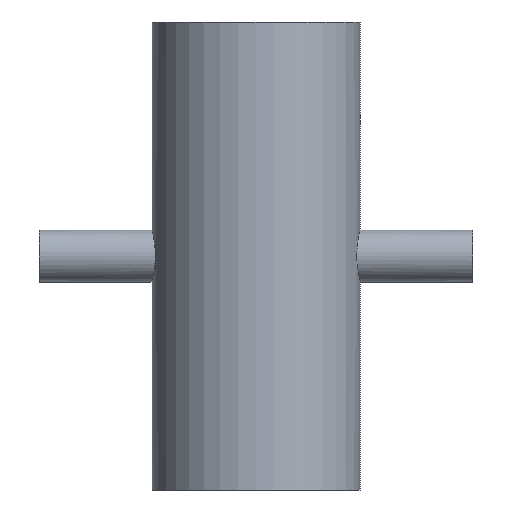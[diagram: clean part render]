
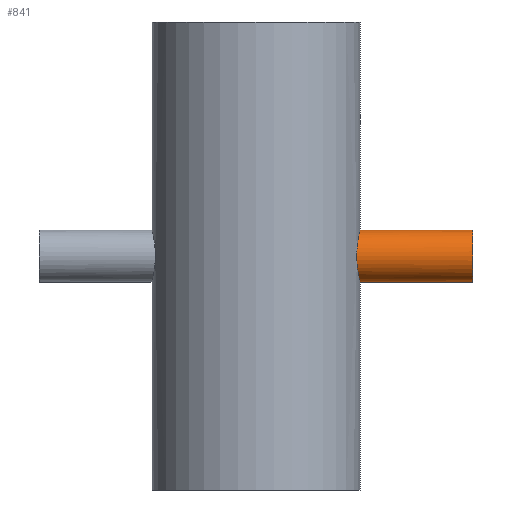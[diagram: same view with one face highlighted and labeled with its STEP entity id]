
A CAD part, front view. The second image highlights one B-rep face of the part: STEP entity #841.
In plain terms, the highlighted cylindrical face has radius 9.525 mm (diameter 19.05 mm), a partial arc.
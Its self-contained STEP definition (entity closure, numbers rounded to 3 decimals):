
#12 = CARTESIAN_POINT ( 'NONE',  ( 38.1, -0.632, -9.525 ) ) ;
#27 = CARTESIAN_POINT ( 'NONE',  ( 37.231, -8.092, 5.035 ) ) ;
#42 = CARTESIAN_POINT ( 'NONE',  ( 38.1, 0., -9.525 ) ) ;
#47 = EDGE_CURVE ( 'NONE', #722, #434, #792, .T. ) ;
#73 = CARTESIAN_POINT ( 'NONE',  ( 37.342, -7.563, 5.798 ) ) ;
#76 = CARTESIAN_POINT ( 'NONE',  ( 37.13, -8.545, 4.22 ) ) ;
#79 = DIRECTION ( 'NONE',  ( 0., 0., -1. ) ) ;
#85 = CARTESIAN_POINT ( 'NONE',  ( 37.196, -8.251, 4.769 ) ) ;
#107 = CARTESIAN_POINT ( 'NONE',  ( 38.039, -2.168, -9.28 ) ) ;
#141 = CARTESIAN_POINT ( 'NONE',  ( 36.953, -9.279, -2.175 ) ) ;
#144 = LINE ( 'NONE', #686, #160 ) ;
#145 = EDGE_CURVE ( 'NONE', #610, #698, #866, .T. ) ;
#160 = VECTOR ( 'NONE', #695, 1000. ) ;
#162 = CARTESIAN_POINT ( 'NONE',  ( 38.084, -1.253, -9.463 ) ) ;
#164 = CARTESIAN_POINT ( 'NONE',  ( 37.043, -8.914, -3.371 ) ) ;
#166 = CARTESIAN_POINT ( 'NONE',  ( 37.578, -6.287, -7.162 ) ) ;
#167 = CARTESIAN_POINT ( 'NONE',  ( 37.099, -8.676, -3.943 ) ) ;
#171 = CARTESIAN_POINT ( 'NONE',  ( 36.906, -9.463, 1.249 ) ) ;
#174 = CARTESIAN_POINT ( 'NONE',  ( 37.13, -8.543, -4.223 ) ) ;
#181 = CARTESIAN_POINT ( 'NONE',  ( 36.972, -9.201, -2.482 ) ) ;
#183 = CARTESIAN_POINT ( 'NONE',  ( 37.656, -5.805, -7.558 ) ) ;
#204 = CARTESIAN_POINT ( 'NONE',  ( 37.656, -5.82, 7.566 ) ) ;
#205 = CARTESIAN_POINT ( 'NONE',  ( 36.89, -9.524, -0.632 ) ) ;
#220 = ORIENTED_EDGE ( 'NONE', *, *, #47, .F. ) ;
#223 = CARTESIAN_POINT ( 'NONE',  ( 37.866, -4.23, 8.54 ) ) ;
#226 = CARTESIAN_POINT ( 'NONE',  ( 37.539, -6.517, -6.953 ) ) ;
#234 = CARTESIAN_POINT ( 'NONE',  ( 36.968, -9.22, 2.473 ) ) ;
#247 = CARTESIAN_POINT ( 'NONE',  ( 37.896, -3.946, 8.675 ) ) ;
#259 = ORIENTED_EDGE ( 'NONE', *, *, #659, .T. ) ;
#269 = CARTESIAN_POINT ( 'NONE',  ( 79.375, 0., -9.525 ) ) ;
#295 = CARTESIAN_POINT ( 'NONE',  ( 37.232, -8.089, -5.04 ) ) ;
#298 = CARTESIAN_POINT ( 'NONE',  ( 37.343, -7.566, -5.82 ) ) ;
#311 = CYLINDRICAL_SURFACE ( 'NONE', #537, 9.525 ) ;
#325 = CARTESIAN_POINT ( 'NONE',  ( 36.89, -9.526, 0.615 ) ) ;
#351 = CARTESIAN_POINT ( 'NONE',  ( 38.069, -1.571, 9.4 ) ) ;
#373 = CARTESIAN_POINT ( 'NONE',  ( 37.098, -8.68, 3.935 ) ) ;
#376 = DIRECTION ( 'NONE',  ( 1., 0., 0. ) ) ;
#384 = CARTESIAN_POINT ( 'NONE',  ( 79.375, 0., 9.525 ) ) ;
#390 = CARTESIAN_POINT ( 'NONE',  ( 38.023, -2.49, 9.215 ) ) ;
#404 = EDGE_CURVE ( 'NONE', #434, #698, #144, .T. ) ;
#434 = VERTEX_POINT ( 'NONE', #679 ) ;
#440 = CARTESIAN_POINT ( 'NONE',  ( 38.1, 0., 9.525 ) ) ;
#445 = CARTESIAN_POINT ( 'NONE',  ( 37.979, -3.084, 9.033 ) ) ;
#449 = DIRECTION ( 'NONE',  ( 0., 0., -1. ) ) ;
#450 = CARTESIAN_POINT ( 'NONE',  ( 36.906, -9.463, -1.252 ) ) ;
#458 = DIRECTION ( 'NONE',  ( -1., 0., 0. ) ) ;
#462 = EDGE_LOOP ( 'NONE', ( #572, #220, #259, #766 ) ) ;
#487 = LINE ( 'NONE', #519, #696 ) ;
#492 = CARTESIAN_POINT ( 'NONE',  ( 37.977, -3.07, -9.022 ) ) ;
#494 = CARTESIAN_POINT ( 'NONE',  ( -79.375, 0., 0. ) ) ;
#506 = CARTESIAN_POINT ( 'NONE',  ( 79.375, 0., 0. ) ) ;
#515 = CARTESIAN_POINT ( 'NONE',  ( 37.304, -7.748, 5.549 ) ) ;
#518 = CARTESIAN_POINT ( 'NONE',  ( 37.017, -9.019, -3.079 ) ) ;
#519 = CARTESIAN_POINT ( 'NONE',  ( -79.375, 0., -9.525 ) ) ;
#528 = CARTESIAN_POINT ( 'NONE',  ( 38.021, -2.471, -9.204 ) ) ;
#531 = CARTESIAN_POINT ( 'NONE',  ( 37.869, -4.232, -8.556 ) ) ;
#537 = AXIS2_PLACEMENT_3D ( 'NONE', #494, #624, #79 ) ;
#553 = CARTESIAN_POINT ( 'NONE',  ( 37.803, -4.778, -8.264 ) ) ;
#572 = ORIENTED_EDGE ( 'NONE', *, *, #404, .F. ) ;
#592 = CARTESIAN_POINT ( 'NONE',  ( 37.694, -5.553, -7.745 ) ) ;
#604 = CARTESIAN_POINT ( 'NONE',  ( 37.196, -8.25, -4.771 ) ) ;
#610 = VERTEX_POINT ( 'NONE', #269 ) ;
#624 = DIRECTION ( 'NONE',  ( 1., 0., 0. ) ) ;
#626 = CARTESIAN_POINT ( 'NONE',  ( 38.081, -1.258, 9.447 ) ) ;
#630 = CARTESIAN_POINT ( 'NONE',  ( 38.1, 0., -9.525 ) ) ;
#652 = CARTESIAN_POINT ( 'NONE',  ( 37.952, -3.367, -8.915 ) ) ;
#657 = CARTESIAN_POINT ( 'NONE',  ( 38.1, -0.316, 9.525 ) ) ;
#659 = EDGE_CURVE ( 'NONE', #722, #610, #487, .T. ) ;
#669 = CARTESIAN_POINT ( 'NONE',  ( 37.42, -7.17, 6.278 ) ) ;
#677 = CARTESIAN_POINT ( 'NONE',  ( 37.579, -6.298, 7.173 ) ) ;
#679 = CARTESIAN_POINT ( 'NONE',  ( 38.1, 0., 9.525 ) ) ;
#686 = CARTESIAN_POINT ( 'NONE',  ( -79.375, 0., 9.525 ) ) ;
#695 = DIRECTION ( 'NONE',  ( 1., 0., 0. ) ) ;
#696 = VECTOR ( 'NONE', #376, 1000. ) ;
#698 = VERTEX_POINT ( 'NONE', #384 ) ;
#707 = CARTESIAN_POINT ( 'NONE',  ( 37.46, -6.959, 6.511 ) ) ;
#717 = AXIS2_PLACEMENT_3D ( 'NONE', #506, #458, #449 ) ;
#721 = CARTESIAN_POINT ( 'NONE',  ( 37.765, -5.048, 8.083 ) ) ;
#722 = VERTEX_POINT ( 'NONE', #630 ) ;
#727 = CARTESIAN_POINT ( 'NONE',  ( 38.096, -0.631, 9.509 ) ) ;
#740 = CARTESIAN_POINT ( 'NONE',  ( 37.013, -9.039, 3.068 ) ) ;
#766 = ORIENTED_EDGE ( 'NONE', *, *, #145, .T. ) ;
#768 = CARTESIAN_POINT ( 'NONE',  ( 37.8, -4.782, 8.244 ) ) ;
#787 = CARTESIAN_POINT ( 'NONE',  ( 37.421, -7.173, -6.297 ) ) ;
#792 = B_SPLINE_CURVE_WITH_KNOTS ( 'NONE', 3,
 ( #42, #12, #162, #107, #528, #492, #652, #531, #553, #592, #183, #166, #226, #787, #298, #295, #604, #174, #167, #164, #518, #181, #141, #450, #205, #325, #171, #234, #740, #373, #76, #85, #27, #515, #73, #669, #707, #677, #204, #721, #768, #223, #247, #445, #390, #351, #626, #727, #657, #440 ),
 .UNSPECIFIED., .F., .F.,
 ( 4, 2, 2, 2, 2, 2, 2, 2, 2, 2, 2, 2, 2, 2, 2, 2, 2, 2, 2, 2, 2, 2, 2, 2, 4 ),
 ( 0.03, 0.032, 0.033, 0.034, 0.035, 0.036, 0.037, 0.039, 0.04, 0.041, 0.042, 0.043, 0.045, 0.047, 0.049, 0.05, 0.05, 0.051, 0.052, 0.054, 0.055, 0.056, 0.058, 0.059, 0.06 ),
 .UNSPECIFIED. ) ;
#841 = ADVANCED_FACE ( 'NONE', ( #864 ), #311, .T. ) ;
#864 = FACE_OUTER_BOUND ( 'NONE', #462, .T. ) ;
#866 = CIRCLE ( 'NONE', #717, 9.525 ) ;
